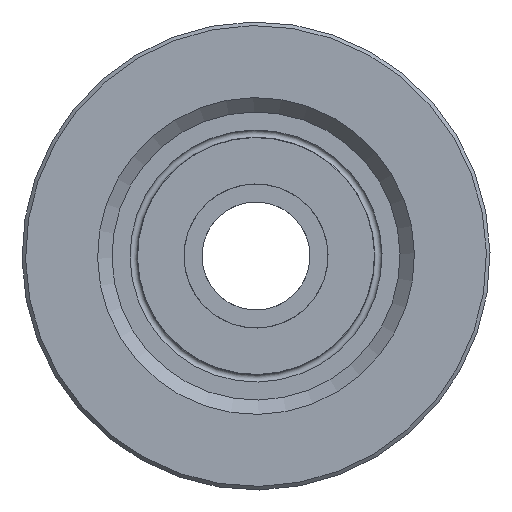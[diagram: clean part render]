
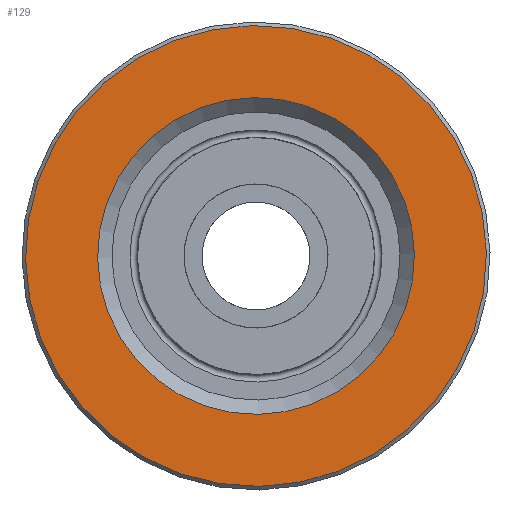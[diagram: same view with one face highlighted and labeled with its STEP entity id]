
A CAD part, front view. The second image highlights one B-rep face of the part: STEP entity #129.
In plain terms, the highlighted planar face has unit normal (0, -1, 0).
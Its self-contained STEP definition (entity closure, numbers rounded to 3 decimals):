
#129 = ADVANCED_FACE('',(#130,#166),#143,.F.);
#130 = FACE_BOUND('',#131,.T.);
#131 = EDGE_LOOP('',(#132));
#132 = ORIENTED_EDGE('',*,*,#133,.T.);
#133 = EDGE_CURVE('',#134,#134,#136,.T.);
#134 = VERTEX_POINT('',#135);
#135 = CARTESIAN_POINT('',(0.,-4.25,4.4));
#136 = SURFACE_CURVE('',#137,(#142,#154),.PCURVE_S1.);
#137 = CIRCLE('',#138,4.4);
#138 = AXIS2_PLACEMENT_3D('',#139,#140,#141);
#139 = CARTESIAN_POINT('',(0.,-4.25,0.));
#140 = DIRECTION('',(0.,1.,0.));
#141 = DIRECTION('',(0.,-0.,1.));
#142 = PCURVE('',#143,#148);
#143 = PLANE('',#144);
#144 = AXIS2_PLACEMENT_3D('',#145,#146,#147);
#145 = CARTESIAN_POINT('',(4.,-4.25,0.));
#146 = DIRECTION('',(0.,1.,0.));
#147 = DIRECTION('',(0.,-0.,1.));
#148 = DEFINITIONAL_REPRESENTATION('',(#149),#153);
#149 = CIRCLE('',#150,4.4);
#150 = AXIS2_PLACEMENT_2D('',#151,#152);
#151 = CARTESIAN_POINT('',(0.,-4.));
#152 = DIRECTION('',(1.,0.));
#153 = ( GEOMETRIC_REPRESENTATION_CONTEXT(2) 
PARAMETRIC_REPRESENTATION_CONTEXT() REPRESENTATION_CONTEXT('2D SPACE',''
  ) );
#154 = PCURVE('',#155,#160);
#155 = CONICAL_SURFACE('',#156,4.4,0.785);
#156 = AXIS2_PLACEMENT_3D('',#157,#158,#159);
#157 = CARTESIAN_POINT('',(0.,-4.25,0.));
#158 = DIRECTION('',(0.,-1.,0.));
#159 = DIRECTION('',(0.,0.,-1.));
#160 = DEFINITIONAL_REPRESENTATION('',(#161),#165);
#161 = LINE('',#162,#163);
#162 = CARTESIAN_POINT('',(9.425,0.));
#163 = VECTOR('',#164,1.);
#164 = DIRECTION('',(-1.,0.));
#165 = ( GEOMETRIC_REPRESENTATION_CONTEXT(2) 
PARAMETRIC_REPRESENTATION_CONTEXT() REPRESENTATION_CONTEXT('2D SPACE',''
  ) );
#166 = FACE_BOUND('',#167,.T.);
#167 = EDGE_LOOP('',(#168));
#168 = ORIENTED_EDGE('',*,*,#169,.T.);
#169 = EDGE_CURVE('',#170,#170,#172,.T.);
#170 = VERTEX_POINT('',#171);
#171 = CARTESIAN_POINT('',(0.,-4.25,6.4));
#172 = SURFACE_CURVE('',#173,(#178,#189),.PCURVE_S1.);
#173 = CIRCLE('',#174,6.4);
#174 = AXIS2_PLACEMENT_3D('',#175,#176,#177);
#175 = CARTESIAN_POINT('',(0.,-4.25,0.));
#176 = DIRECTION('',(0.,-1.,0.));
#177 = DIRECTION('',(0.,0.,1.));
#178 = PCURVE('',#143,#179);
#179 = DEFINITIONAL_REPRESENTATION('',(#180),#188);
#180 = ( BOUNDED_CURVE() B_SPLINE_CURVE(2,(#181,#182,#183,#184,#185,#186
,#187),.UNSPECIFIED.,.T.,.F.) B_SPLINE_CURVE_WITH_KNOTS((1,2,2,2,2,1),(
    -2.094,0.,2.094,4.189,6.283,
8.378),.UNSPECIFIED.) CURVE() GEOMETRIC_REPRESENTATION_ITEM() 
RATIONAL_B_SPLINE_CURVE((1.,0.5,1.,0.5,1.,0.5,1.)) REPRESENTATION_ITEM(
  '') );
#181 = CARTESIAN_POINT('',(6.4,-4.));
#182 = CARTESIAN_POINT('',(6.4,-15.085));
#183 = CARTESIAN_POINT('',(-3.2,-9.543));
#184 = CARTESIAN_POINT('',(-12.8,-4.));
#185 = CARTESIAN_POINT('',(-3.2,1.543));
#186 = CARTESIAN_POINT('',(6.4,7.085));
#187 = CARTESIAN_POINT('',(6.4,-4.));
#188 = ( GEOMETRIC_REPRESENTATION_CONTEXT(2) 
PARAMETRIC_REPRESENTATION_CONTEXT() REPRESENTATION_CONTEXT('2D SPACE',''
  ) );
#189 = PCURVE('',#190,#195);
#190 = CONICAL_SURFACE('',#191,6.5,0.785);
#191 = AXIS2_PLACEMENT_3D('',#192,#193,#194);
#192 = CARTESIAN_POINT('',(0.,-4.15,0.));
#193 = DIRECTION('',(0.,1.,0.));
#194 = DIRECTION('',(0.,-0.,1.));
#195 = DEFINITIONAL_REPRESENTATION('',(#196),#200);
#196 = LINE('',#197,#198);
#197 = CARTESIAN_POINT('',(6.283,-0.1));
#198 = VECTOR('',#199,1.);
#199 = DIRECTION('',(-1.,0.));
#200 = ( GEOMETRIC_REPRESENTATION_CONTEXT(2) 
PARAMETRIC_REPRESENTATION_CONTEXT() REPRESENTATION_CONTEXT('2D SPACE',''
  ) );
